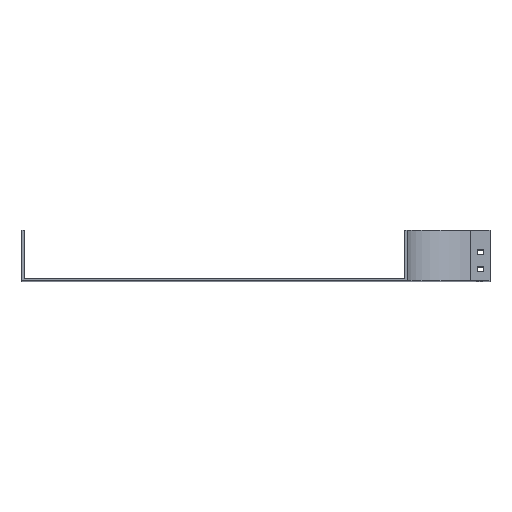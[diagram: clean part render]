
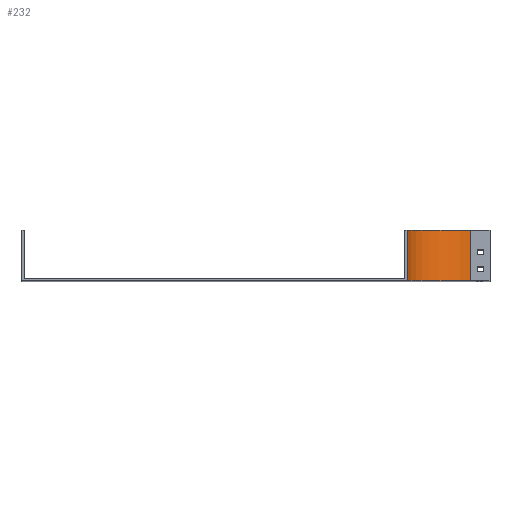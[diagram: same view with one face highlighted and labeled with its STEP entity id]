
A CAD part, top view. The second image highlights one B-rep face of the part: STEP entity #232.
In plain terms, the highlighted cylindrical face has radius 100 mm (diameter 200 mm), a partial arc.
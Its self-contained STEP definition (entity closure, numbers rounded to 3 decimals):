
#24 = ORIENTED_EDGE ( 'NONE', *, *, #1846, .F. ) ;
#42 = DIRECTION ( 'NONE',  ( 0., -1., 0. ) ) ;
#80 = CYLINDRICAL_SURFACE ( 'NONE', #1924, 100. ) ;
#102 = CARTESIAN_POINT ( 'NONE',  ( 0., 0., 0. ) ) ;
#126 = CARTESIAN_POINT ( 'NONE',  ( 0., 79., -100. ) ) ;
#160 = VERTEX_POINT ( 'NONE', #651 ) ;
#176 = CARTESIAN_POINT ( 'NONE',  ( -100., 79., 0. ) ) ;
#228 = CARTESIAN_POINT ( 'NONE',  ( 0., 0., -100. ) ) ;
#232 = ADVANCED_FACE ( 'NONE', ( #1531 ), #80, .F. ) ;
#368 = ORIENTED_EDGE ( 'NONE', *, *, #1301, .F. ) ;
#374 = VERTEX_POINT ( 'NONE', #1683 ) ;
#651 = CARTESIAN_POINT ( 'NONE',  ( 0., 79., -100. ) ) ;
#709 = CARTESIAN_POINT ( 'NONE',  ( -100., 79., 0. ) ) ;
#911 = DIRECTION ( 'NONE',  ( 0., -1., 0. ) ) ;
#913 = CIRCLE ( 'NONE', #2214, 100. ) ;
#928 = LINE ( 'NONE', #126, #2414 ) ;
#946 = CARTESIAN_POINT ( 'NONE',  ( 0., 79., 0. ) ) ;
#948 = DIRECTION ( 'NONE',  ( 0., 0., -1. ) ) ;
#953 = DIRECTION ( 'NONE',  ( 0., -1., 0. ) ) ;
#1069 = ORIENTED_EDGE ( 'NONE', *, *, #2421, .T. ) ;
#1075 = DIRECTION ( 'NONE',  ( 0., -1., 0. ) ) ;
#1082 = CARTESIAN_POINT ( 'NONE',  ( 0., 79., 0. ) ) ;
#1301 = EDGE_CURVE ( 'NONE', #1638, #160, #913, .T. ) ;
#1531 = FACE_OUTER_BOUND ( 'NONE', #2016, .T. ) ;
#1593 = DIRECTION ( 'NONE',  ( 0., -1., 0. ) ) ;
#1638 = VERTEX_POINT ( 'NONE', #709 ) ;
#1683 = CARTESIAN_POINT ( 'NONE',  ( -100., 0., 0. ) ) ;
#1700 = ORIENTED_EDGE ( 'NONE', *, *, #2293, .T. ) ;
#1745 = VECTOR ( 'NONE', #1075, 1000. ) ;
#1763 = DIRECTION ( 'NONE',  ( 0., 0., -1. ) ) ;
#1846 = EDGE_CURVE ( 'NONE', #160, #2182, #928, .T. ) ;
#1924 = AXIS2_PLACEMENT_3D ( 'NONE', #1082, #42, #1763 ) ;
#1925 = CIRCLE ( 'NONE', #2694, 100. ) ;
#2016 = EDGE_LOOP ( 'NONE', ( #1069, #24, #368, #1700 ) ) ;
#2182 = VERTEX_POINT ( 'NONE', #228 ) ;
#2199 = DIRECTION ( 'NONE',  ( 0., 0., -1. ) ) ;
#2214 = AXIS2_PLACEMENT_3D ( 'NONE', #946, #1593, #2199 ) ;
#2293 = EDGE_CURVE ( 'NONE', #1638, #374, #2602, .T. ) ;
#2414 = VECTOR ( 'NONE', #953, 1000. ) ;
#2421 = EDGE_CURVE ( 'NONE', #374, #2182, #1925, .T. ) ;
#2602 = LINE ( 'NONE', #176, #1745 ) ;
#2694 = AXIS2_PLACEMENT_3D ( 'NONE', #102, #911, #948 ) ;
